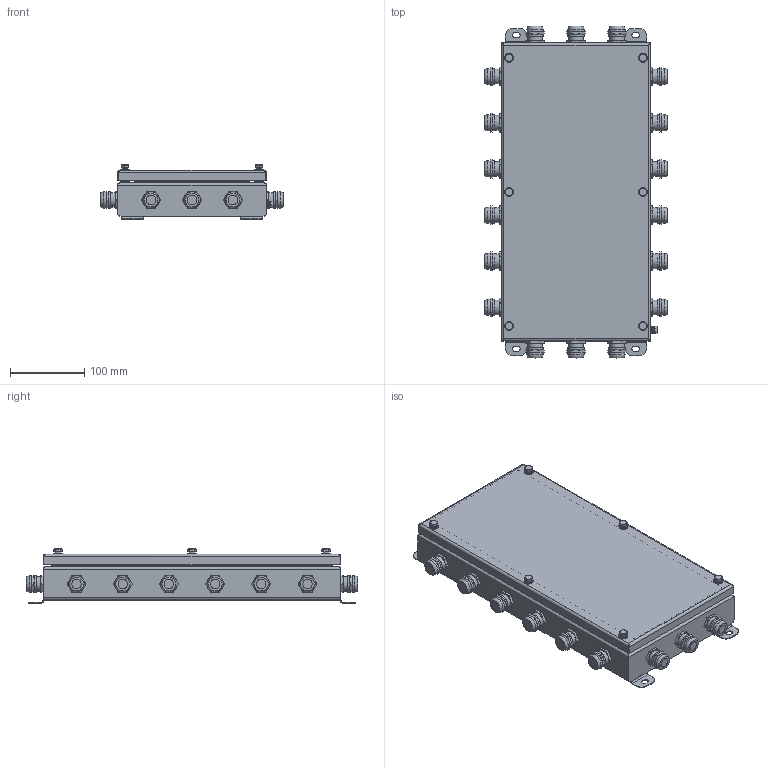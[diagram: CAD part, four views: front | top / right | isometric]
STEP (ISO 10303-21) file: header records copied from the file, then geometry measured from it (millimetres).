
FILE_DESCRIPTION(('STEP AP203'), '1');
FILE_NAME('Êîðîáêà 2040 IP66', '', ('UNSPECIFIED'), ('UNSPECIFIED'), 'ASCON STEP Converter 1.6', 'ASCON Math Kernel', '');
FILE_SCHEMA(('CONFIG_CONTROL_DESIGN'));
Length unit declared in the file: millimetre
Bounding box: 245.67 x 445.67 x 72.5 mm (x, y, z)
Volume: 4780662 mm3; surface area: 337684.1 mm2
Topology: 2 solids, 2 shells, 1087 faces, 2720 edges, 1738 vertices
Faces by surface type: plane 498, cylinder 399, cone 156, torus 26, bspline 8
Full cylindrical faces by diameter (mm): 3.7 x1, 4.134 x1, 5 x1, 5.5 x2, 6 x6, 6.5 x1, 6.6 x6, 8.5 x6, 10 x2, 12 x6, 12.6 x18, 13 x6, 14 x6, 20 x18, 21.6 x36
Entity records: 62447 total; most frequent: CARTESIAN_POINT 9652, DIRECTION 5144, ORIENTED_EDGE 5060, PROPERTY_DEFINITION 4248, PROPERTY_DEFINITION_REPRESENTATION 4248, REPRESENTATION 4248, EDGE_CURVE 2530, GENERAL_PROPERTY_ASSOCIATION 2466
